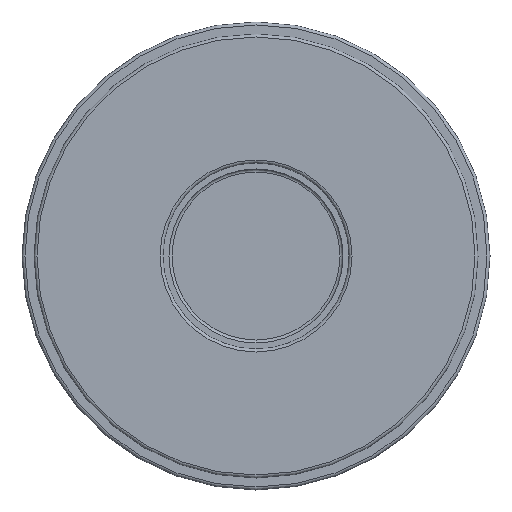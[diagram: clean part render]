
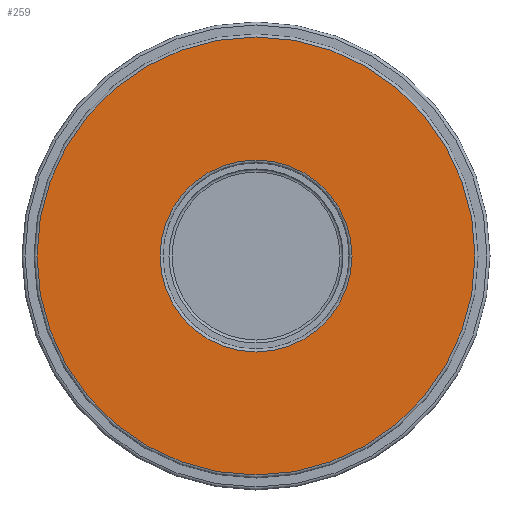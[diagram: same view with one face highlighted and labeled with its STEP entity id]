
A CAD part, front view. The second image highlights one B-rep face of the part: STEP entity #259.
In plain terms, the highlighted planar face has unit normal (0, -1, 0).
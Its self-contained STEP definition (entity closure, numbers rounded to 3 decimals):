
#259=ADVANCED_FACE('',(#5466,#5468),#5470,.T.);
#5466=FACE_BOUND('',#5467,.T.);
#5467=EDGE_LOOP('',(#6291,#6292));
#5468=FACE_BOUND('',#5469,.T.);
#5469=EDGE_LOOP('',(#6293,#6294));
#5470=PLANE('',#5471);
#5471=AXIS2_PLACEMENT_3D('',#5472,#5473,#5474);
#5472=CARTESIAN_POINT('',(0.,-15.,0.));
#5473=DIRECTION('',(0.,-1.,0.));
#5474=DIRECTION('',(0.,0.,1.));
#6291=ORIENTED_EDGE('',*,*,#6680,.F.);
#6292=ORIENTED_EDGE('',*,*,#6679,.F.);
#6293=ORIENTED_EDGE('',*,*,#6681,.T.);
#6294=ORIENTED_EDGE('',*,*,#6682,.T.);
#6679=EDGE_CURVE('',#7242,#7243,#7244,.T.);
#6680=EDGE_CURVE('',#7243,#7242,#7245,.T.);
#6681=EDGE_CURVE('',#7246,#7247,#7248,.T.);
#6682=EDGE_CURVE('',#7247,#7246,#7249,.T.);
#7242=VERTEX_POINT('',#11044);
#7243=VERTEX_POINT('',#11045);
#7244=CIRCLE('',#11046,36.5);
#7245=CIRCLE('',#11050,36.5);
#7246=VERTEX_POINT('',#11054);
#7247=VERTEX_POINT('',#11055);
#7248=CIRCLE('',#11056,16.);
#7249=CIRCLE('',#11060,16.);
#11044=CARTESIAN_POINT('',(0.,-15.,36.5));
#11045=CARTESIAN_POINT('',(0.,-15.,-36.5));
#11046=AXIS2_PLACEMENT_3D('',#11047,#11048,#11049);
#11047=CARTESIAN_POINT('',(0.,-15.,0.));
#11048=DIRECTION('',(0.,1.,0.));
#11049=DIRECTION('',(0.,0.,1.));
#11050=AXIS2_PLACEMENT_3D('',#11051,#11052,#11053);
#11051=CARTESIAN_POINT('',(0.,-15.,0.));
#11052=DIRECTION('',(0.,1.,0.));
#11053=DIRECTION('',(0.,0.,-1.));
#11054=CARTESIAN_POINT('',(0.,-15.,16.));
#11055=CARTESIAN_POINT('',(0.,-15.,-16.));
#11056=AXIS2_PLACEMENT_3D('',#11057,#11058,#11059);
#11057=CARTESIAN_POINT('',(0.,-15.,0.));
#11058=DIRECTION('',(0.,1.,0.));
#11059=DIRECTION('',(0.,0.,1.));
#11060=AXIS2_PLACEMENT_3D('',#11061,#11062,#11063);
#11061=CARTESIAN_POINT('',(0.,-15.,0.));
#11062=DIRECTION('',(0.,1.,0.));
#11063=DIRECTION('',(0.,0.,-1.));
